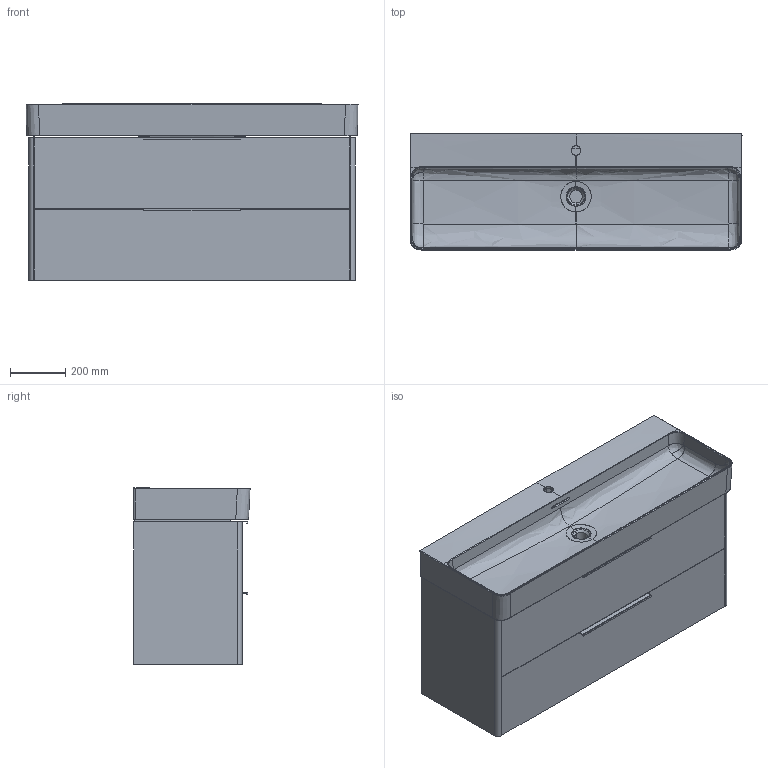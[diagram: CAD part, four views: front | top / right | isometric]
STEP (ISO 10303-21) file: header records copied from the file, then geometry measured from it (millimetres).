
FILE_DESCRIPTION(/* description */ (''),/* implementation_level */ '2;1');
FILE_NAME(/* name */ 'C:\Users\User33\Desktop\Base\3D01_402472.stp',/* time_stamp */ '2018-05-05T15:02:01+02:00',/* author */ ('User33'),/* organization */ (''),/* preprocessor_version */ 'ST-DEVELOPER v16.13',/* originating_system */ 'Autodesk Inventor 2018',/* authorisation */ '');
FILE_SCHEMA (('AUTOMOTIVE_DESIGN { 1 0 10303 214 3 1 1 }'));
Products named in the file (24): Scheletro monoblocco curvo 1180; Catena_superiore; Frontale cassetto superiore; Catena inferiore; Fianco sx; Fianco dx; Fondo mobile; Fondo cassetto superiore; Fondo cassetto inferiore; Retro cassetto superiore; Fascia rialzo; Retro_cassetto inferiore; Frontale cassetto inferiore; Maniglia superiore; maniglia inferiore; 300-84; 300-84_1; 300-84_2; 300-84_3; 300-84_MIR6; 300-84_1_MIR6; 300-84_2_MIR6; 300-84_3_MIR6; HY10289......1_A.01
Assembly tree (25 placements, depth 3):
  Scheletro monoblocco curvo 1180
    Catena_superiore
    Frontale cassetto superiore
    Catena inferiore
    Fianco sx
    Fianco dx
    Fondo mobile
    Fondo cassetto superiore
    Fondo cassetto inferiore
    Retro cassetto superiore
    Fascia rialzo
    Retro_cassetto inferiore
    Frontale cassetto inferiore
    Maniglia superiore
    maniglia inferiore
    300-84  x2
      300-84_1
      300-84_2
      300-84_3
    300-84_MIR6  x2
      300-84_1_MIR6
      300-84_2_MIR6
      300-84_3_MIR6
    HY10289......1_A.01
Bounding box: 1199.91 x 419.95 x 638.98 mm (x, y, z)
Volume: 41870056.9 mm3; surface area: 7591567.6 mm2
Topology: 28 solids, 803 shells, 1746 faces, 6314 edges, 5404 vertices
Faces by surface type: plane 853, bspline 410, cylinder 381, torus 65, sphere 24, cone 13
Full cylindrical faces by diameter (mm): 4 x8, 4.1 x4, 5 x8, 5.1 x4, 6 x8, 6.3 x48
Entity records: 134385 total; most frequent: CARTESIAN_POINT 93089, DIRECTION 7431, ORIENTED_EDGE 6452, EDGE_CURVE 5045, VERTEX_POINT 4604, AXIS2_PLACEMENT_3D 2672, LINE 2087, VECTOR 2087
